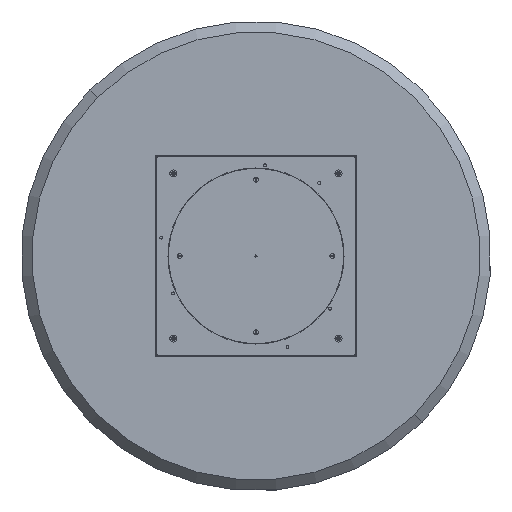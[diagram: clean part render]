
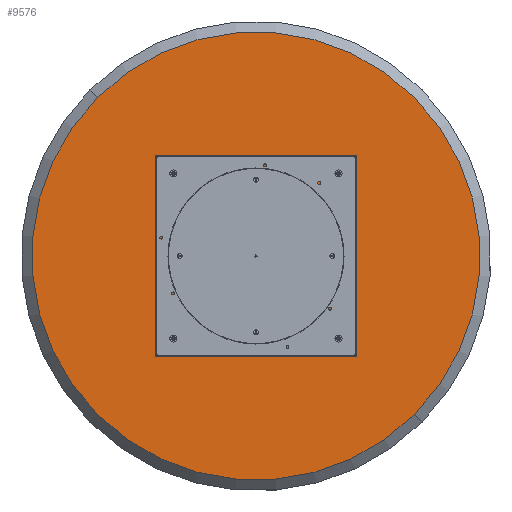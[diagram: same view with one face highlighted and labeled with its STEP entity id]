
A CAD part, front view. The second image highlights one B-rep face of the part: STEP entity #9576.
In plain terms, the highlighted planar face has unit normal (0, -1, 0).
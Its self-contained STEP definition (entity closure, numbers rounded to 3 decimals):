
#49 = CARTESIAN_POINT ( 'NONE',  ( 0., 0., 397.5 ) ) ;
#194 = AXIS2_PLACEMENT_3D ( 'NONE', #226, #3788, #13525 ) ;
#226 = CARTESIAN_POINT ( 'NONE',  ( 0., 0., 397.5 ) ) ;
#465 = ORIENTED_EDGE ( 'NONE', *, *, #15425, .T. ) ;
#531 = FACE_BOUND ( 'NONE', #15148, .T. ) ;
#555 = ORIENTED_EDGE ( 'NONE', *, *, #3143, .F. ) ;
#812 = EDGE_CURVE ( 'NONE', #10024, #2007, #5592, .T. ) ;
#1157 = CARTESIAN_POINT ( 'NONE',  ( -397.5, 0., 3.4 ) ) ;
#1789 = EDGE_CURVE ( 'NONE', #10115, #8453, #14103, .T. ) ;
#1940 = AXIS2_PLACEMENT_3D ( 'NONE', #7082, #15240, #5904 ) ;
#1978 = EDGE_CURVE ( 'NONE', #11255, #7214, #11832, .T. ) ;
#2007 = VERTEX_POINT ( 'NONE', #6797 ) ;
#2177 = CIRCLE ( 'NONE', #11028, 3.4 ) ;
#2333 = CARTESIAN_POINT ( 'NONE',  ( 0., 0., 394.1 ) ) ;
#2818 = CARTESIAN_POINT ( 'NONE',  ( 397.5, 0., -3.4 ) ) ;
#2881 = FACE_OUTER_BOUND ( 'NONE', #6227, .T. ) ;
#3143 = EDGE_CURVE ( 'NONE', #4979, #10446, #6501, .T. ) ;
#3285 = AXIS2_PLACEMENT_3D ( 'NONE', #9113, #7909, #11636 ) ;
#3537 = DIRECTION ( 'NONE',  ( 0., -1., 0. ) ) ;
#3577 = CARTESIAN_POINT ( 'NONE',  ( 397.5, 0., 0. ) ) ;
#3788 = DIRECTION ( 'NONE',  ( 0., -1., 0. ) ) ;
#3925 = DIRECTION ( 'NONE',  ( 0., -1., 0. ) ) ;
#3968 = CARTESIAN_POINT ( 'NONE',  ( 0., 0., -397.5 ) ) ;
#4035 = VERTEX_POINT ( 'NONE', #1157 ) ;
#4158 = EDGE_CURVE ( 'NONE', #7214, #11255, #5837, .T. ) ;
#4205 = CIRCLE ( 'NONE', #9765, 3.4 ) ;
#4979 = VERTEX_POINT ( 'NONE', #6983 ) ;
#5020 = CARTESIAN_POINT ( 'NONE',  ( -397.5, 0., 0. ) ) ;
#5099 = ORIENTED_EDGE ( 'NONE', *, *, #7499, .F. ) ;
#5130 = PLANE ( 'NONE',  #5496 ) ;
#5496 = AXIS2_PLACEMENT_3D ( 'NONE', #14787, #3925, #8758 ) ;
#5592 = CIRCLE ( 'NONE', #3285, 763. ) ;
#5837 = CIRCLE ( 'NONE', #10867, 3.4 ) ;
#5877 = AXIS2_PLACEMENT_3D ( 'NONE', #10966, #3537, #6005 ) ;
#5890 = DIRECTION ( 'NONE',  ( 0., -1., 0. ) ) ;
#5904 = DIRECTION ( 'NONE',  ( 0., 0., -1. ) ) ;
#6005 = DIRECTION ( 'NONE',  ( 0., 0., -1. ) ) ;
#6227 = EDGE_LOOP ( 'NONE', ( #465, #11960 ) ) ;
#6324 = FACE_BOUND ( 'NONE', #11570, .T. ) ;
#6433 = DIRECTION ( 'NONE',  ( 0., -1., 0. ) ) ;
#6434 = DIRECTION ( 'NONE',  ( 0., -1., 0. ) ) ;
#6501 = CIRCLE ( 'NONE', #1940, 3.4 ) ;
#6630 = CARTESIAN_POINT ( 'NONE',  ( 0., 0., -394.1 ) ) ;
#6797 = CARTESIAN_POINT ( 'NONE',  ( 0., 0., 763. ) ) ;
#6880 = CIRCLE ( 'NONE', #5877, 763. ) ;
#6983 = CARTESIAN_POINT ( 'NONE',  ( 397.5, 0., 3.4 ) ) ;
#6996 = CARTESIAN_POINT ( 'NONE',  ( 0., 0., -397.5 ) ) ;
#7063 = CARTESIAN_POINT ( 'NONE',  ( -397.5, 0., 0. ) ) ;
#7078 = DIRECTION ( 'NONE',  ( 0., -1., 0. ) ) ;
#7082 = CARTESIAN_POINT ( 'NONE',  ( 397.5, 0., 0. ) ) ;
#7214 = VERTEX_POINT ( 'NONE', #2333 ) ;
#7394 = CARTESIAN_POINT ( 'NONE',  ( 0., 0., 400.9 ) ) ;
#7499 = EDGE_CURVE ( 'NONE', #4035, #13237, #13051, .T. ) ;
#7569 = FACE_BOUND ( 'NONE', #10387, .T. ) ;
#7629 = ORIENTED_EDGE ( 'NONE', *, *, #1978, .F. ) ;
#7909 = DIRECTION ( 'NONE',  ( 0., -1., 0. ) ) ;
#8371 = ORIENTED_EDGE ( 'NONE', *, *, #4158, .F. ) ;
#8373 = CIRCLE ( 'NONE', #9875, 3.4 ) ;
#8453 = VERTEX_POINT ( 'NONE', #6630 ) ;
#8576 = DIRECTION ( 'NONE',  ( 0., 0., -1. ) ) ;
#8590 = DIRECTION ( 'NONE',  ( 0., -1., 0. ) ) ;
#8758 = DIRECTION ( 'NONE',  ( 0., 0., -1. ) ) ;
#9112 = EDGE_CURVE ( 'NONE', #8453, #10115, #4205, .T. ) ;
#9113 = CARTESIAN_POINT ( 'NONE',  ( 0., 0., 0. ) ) ;
#9300 = DIRECTION ( 'NONE',  ( 0., 0., -1. ) ) ;
#9472 = EDGE_CURVE ( 'NONE', #10446, #4979, #2177, .T. ) ;
#9576 = ADVANCED_FACE ( 'NONE', ( #2881, #7569, #13314, #6324, #531 ), #5130, .T. ) ;
#9759 = ORIENTED_EDGE ( 'NONE', *, *, #14650, .F. ) ;
#9765 = AXIS2_PLACEMENT_3D ( 'NONE', #3968, #6433, #8576 ) ;
#9875 = AXIS2_PLACEMENT_3D ( 'NONE', #5020, #6434, #11252 ) ;
#10024 = VERTEX_POINT ( 'NONE', #10375 ) ;
#10115 = VERTEX_POINT ( 'NONE', #10613 ) ;
#10136 = CARTESIAN_POINT ( 'NONE',  ( -397.5, 0., -3.4 ) ) ;
#10375 = CARTESIAN_POINT ( 'NONE',  ( 0., 0., -763. ) ) ;
#10387 = EDGE_LOOP ( 'NONE', ( #13917, #13139 ) ) ;
#10446 = VERTEX_POINT ( 'NONE', #2818 ) ;
#10554 = AXIS2_PLACEMENT_3D ( 'NONE', #6996, #7078, #9300 ) ;
#10613 = CARTESIAN_POINT ( 'NONE',  ( 0., 0., -400.9 ) ) ;
#10701 = DIRECTION ( 'NONE',  ( 0., 0., -1. ) ) ;
#10867 = AXIS2_PLACEMENT_3D ( 'NONE', #49, #8590, #11112 ) ;
#10966 = CARTESIAN_POINT ( 'NONE',  ( 0., 0., 0. ) ) ;
#11028 = AXIS2_PLACEMENT_3D ( 'NONE', #3577, #14283, #14356 ) ;
#11112 = DIRECTION ( 'NONE',  ( 0., 0., -1. ) ) ;
#11252 = DIRECTION ( 'NONE',  ( 0., 0., -1. ) ) ;
#11255 = VERTEX_POINT ( 'NONE', #7394 ) ;
#11570 = EDGE_LOOP ( 'NONE', ( #14293, #555 ) ) ;
#11636 = DIRECTION ( 'NONE',  ( 0., 0., -1. ) ) ;
#11832 = CIRCLE ( 'NONE', #194, 3.4 ) ;
#11960 = ORIENTED_EDGE ( 'NONE', *, *, #812, .T. ) ;
#13051 = CIRCLE ( 'NONE', #15081, 3.4 ) ;
#13139 = ORIENTED_EDGE ( 'NONE', *, *, #9112, .F. ) ;
#13237 = VERTEX_POINT ( 'NONE', #10136 ) ;
#13314 = FACE_BOUND ( 'NONE', #13632, .T. ) ;
#13525 = DIRECTION ( 'NONE',  ( 0., 0., -1. ) ) ;
#13632 = EDGE_LOOP ( 'NONE', ( #9759, #5099 ) ) ;
#13917 = ORIENTED_EDGE ( 'NONE', *, *, #1789, .F. ) ;
#14103 = CIRCLE ( 'NONE', #10554, 3.4 ) ;
#14283 = DIRECTION ( 'NONE',  ( 0., -1., 0. ) ) ;
#14293 = ORIENTED_EDGE ( 'NONE', *, *, #9472, .F. ) ;
#14356 = DIRECTION ( 'NONE',  ( 0., 0., -1. ) ) ;
#14650 = EDGE_CURVE ( 'NONE', #13237, #4035, #8373, .T. ) ;
#14787 = CARTESIAN_POINT ( 'NONE',  ( 0., 0., 0. ) ) ;
#15081 = AXIS2_PLACEMENT_3D ( 'NONE', #7063, #5890, #10701 ) ;
#15148 = EDGE_LOOP ( 'NONE', ( #8371, #7629 ) ) ;
#15240 = DIRECTION ( 'NONE',  ( 0., -1., 0. ) ) ;
#15425 = EDGE_CURVE ( 'NONE', #2007, #10024, #6880, .T. ) ;
